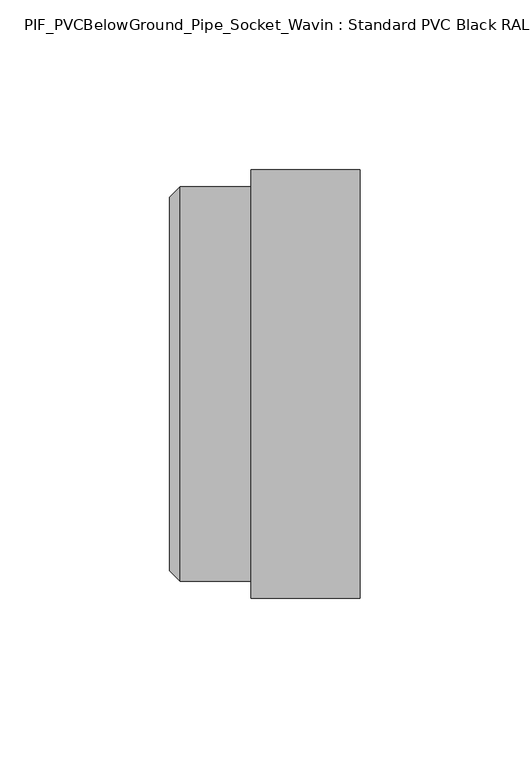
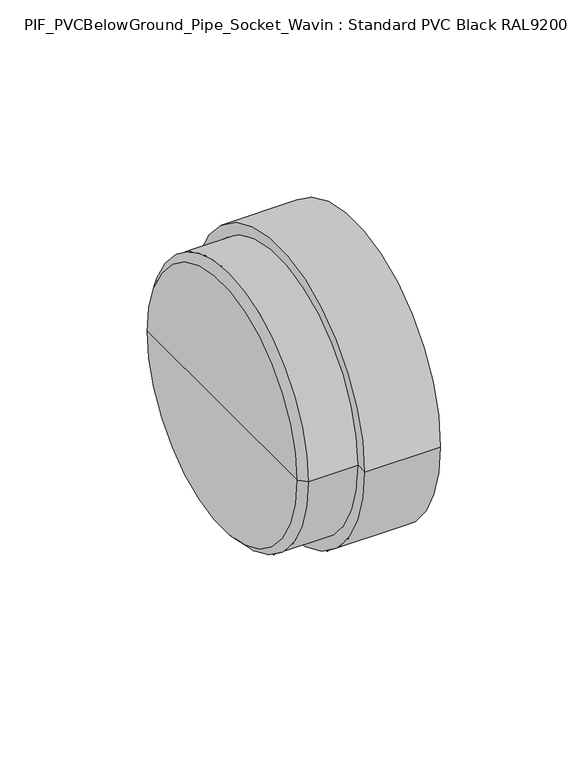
"""IFC4 building model written with IfcOpenShell, lengths in millimetres: pipe fitting geometry, PIF_PVCBelowGround_Pipe_Socket_Wavin : Standard PVC Black RAL9200."""

from ifc_helpers import new_model, si_unit, frame, origin, place, context, project, spatial, polyline, circle_curve, source, transform, mapped, element, save
from ifc_brep_helpers import plane_surface, cylinder_surface, revolved_surface, advanced_brep


def pif_pvcbelowground_pipe_socket_wavin_standard_pvc_black_1dbcee6c(model_context):
    return source(origin(), model_context, "Body", "AdvancedBrep", [
        advanced_brep(
        [(21.0, -63.0, 0.0), (21.0, 63.0, 0.0), (53.0, 63.0, 0.0), (53.0, -63.0, 0.0), (21.0, -58.1, 0.0), (21.0, 58.1, 0.0), (53.0, -58.1, 0.0), (53.0, 58.1, 0.0)],
        [
            (0, 1, circle_curve(frame((21.0, 0.0, 0.0), z_axis=(1.0, 0.0, 0.0), x_axis=(0.0, 1.0, 0.0)), 63.0)),
            (1, 2),
            (2, 3, circle_curve(frame((53.0, 0.0, 0.0), z_axis=(-1.0, 0.0, 0.0), x_axis=(0.0, 1.0, 0.0)), 63.0)),
            (3, 0),
            (1, 0, circle_curve(frame((21.0, 0.0, 0.0), z_axis=(1.0, 0.0, 0.0), x_axis=(0.0, 1.0, 0.0)), 63.0)),
            (3, 2, circle_curve(frame((53.0, 0.0, 0.0), z_axis=(-1.0, 0.0, 0.0), x_axis=(0.0, 1.0, 0.0)), 63.0)),
            (4, 5, circle_curve(frame((21.0, 0.0, 0.0), z_axis=(1.0, 0.0, 0.0), x_axis=(0.0, 1.0, 0.0)), 58.1)),
            (5, 1),
            (0, 4),
            (5, 4, circle_curve(frame((21.0, 0.0, 0.0), z_axis=(1.0, 0.0, 0.0), x_axis=(0.0, 1.0, 0.0)), 58.1)),
            (6, 7, circle_curve(frame((53.0, 0.0, 0.0), z_axis=(1.0, 0.0, 0.0), x_axis=(0.0, 1.0, 0.0)), 58.1)),
            (7, 5),
            (4, 6),
            (7, 6, circle_curve(frame((53.0, 0.0, 0.0), z_axis=(1.0, 0.0, 0.0), x_axis=(0.0, 1.0, 0.0)), 58.1)),
            (2, 7),
            (6, 3),
        ],
        [
            cylinder_surface(frame((1963.3, 0.0, 0.0), z_axis=(-1.0, 0.0, 0.0), x_axis=(0.0, 1.0, 0.0)), 63.0),
            plane_surface(frame((21.0, 0.0, 0.0), z_axis=(-1.0, 0.0, 0.0), x_axis=(0.0, 1.0, 0.0))),
            revolved_surface(polyline([(21.0, 58.1, 0.0), (53.0, 58.1, 0.0)]), (1963.3, 0.0, 0.0), (-1.0, 0.0, 0.0)),
            plane_surface(frame((53.0, 0.0, 0.0), z_axis=(1.0, 0.0, 0.0), x_axis=(0.0, 1.0, 0.0))),
        ],
        [
            (0, [[1, 2, 3, 4]]),
            (0, [[5, -4, 6, -2]]),
            (1, [[7, 8, -1, 9]]),
            (1, [[10, -9, -5, -8]]),
            (2, [[11, 12, -7, 13]]),
            (2, [[14, -13, -10, -12]]),
            (3, [[-3, 15, -11, 16]]),
            (3, [[-6, -16, -14, -15]]),
        ],
    ),
        advanced_brep(
        [(53.0, -58.1, 0.0), (53.0, 58.1, 0.0), (53.0, 55.0, 0.0), (53.0, -55.0, 0.0), (0.0, -58.1, 0.0), (0.0, 58.1, 0.0), (-3.0, -55.0, 0.0), (-3.0, 55.0, 0.0), (-3.0, 0.0, 0.0), (0.0, -55.0, 0.0), (0.0, 55.0, 0.0), (0.0, 0.0, 0.0)],
        [
            (0, 1, circle_curve(frame((53.0, 0.0, 0.0), z_axis=(1.0, 0.0, 0.0), x_axis=(0.0, 1.0, 0.0)), 58.1)),
            (1, 2),
            (2, 3, circle_curve(frame((53.0, 0.0, 0.0), z_axis=(-1.0, 0.0, 0.0), x_axis=(0.0, 1.0, 0.0)), 55.0)),
            (3, 0),
            (1, 0, circle_curve(frame((53.0, 0.0, 0.0), z_axis=(1.0, 0.0, 0.0), x_axis=(0.0, 1.0, 0.0)), 58.1)),
            (3, 2, circle_curve(frame((53.0, 0.0, 0.0), z_axis=(-1.0, 0.0, 0.0), x_axis=(0.0, 1.0, 0.0)), 55.0)),
            (4, 5, circle_curve(frame((0.0, 0.0, 0.0), z_axis=(1.0, 0.0, 0.0), x_axis=(0.0, 1.0, 0.0)), 58.1)),
            (5, 1),
            (0, 4),
            (5, 4, circle_curve(frame((0.0, 0.0, 0.0), z_axis=(1.0, 0.0, 0.0), x_axis=(0.0, 1.0, 0.0)), 58.1)),
            (6, 7, circle_curve(frame((-3.0, 0.0, 0.0), z_axis=(1.0, 0.0, 0.0), x_axis=(0.0, 1.0, 0.0)), 55.0)),
            (7, 5),
            (4, 6),
            (7, 6, circle_curve(frame((-3.0, 0.0, 0.0), z_axis=(1.0, 0.0, 0.0), x_axis=(0.0, 1.0, 0.0)), 55.0)),
            (8, 7),
            (6, 8),
            (9, 10, circle_curve(frame((0.0, 0.0, 0.0), z_axis=(1.0, 0.0, 0.0), x_axis=(0.0, 1.0, 0.0)), 55.0)),
            (10, 11),
            (11, 9),
            (10, 9, circle_curve(frame((0.0, 0.0, 0.0), z_axis=(1.0, 0.0, 0.0), x_axis=(0.0, 1.0, 0.0)), 55.0)),
            (2, 10),
            (9, 3),
        ],
        [
            plane_surface(frame((53.0, 0.0, 0.0), z_axis=(1.0, 0.0, 0.0), x_axis=(0.0, 1.0, 0.0))),
            cylinder_surface(frame((1963.3, 0.0, 0.0), z_axis=(-1.0, 0.0, 0.0), x_axis=(0.0, 1.0, 0.0)), 58.1),
            revolved_surface(polyline([(0.0, 58.1, 0.0), (-3.0, 55.0, 0.0)]), (1963.3, 0.0, 0.0), (-1.0, 0.0, 0.0)),
            plane_surface(frame((-3.0, 0.0, 0.0), z_axis=(-1.0, 0.0, 0.0), x_axis=(0.0, 1.0, 0.0))),
            plane_surface(frame((0.0, 0.0, 0.0), z_axis=(1.0, 0.0, 0.0), x_axis=(0.0, 1.0, 0.0))),
            revolved_surface(polyline([(0.0, 55.0, 0.0), (53.0, 55.0, 0.0)]), (1963.3, 0.0, 0.0), (-1.0, 0.0, 0.0)),
        ],
        [
            (0, [[1, 2, 3, 4]]),
            (0, [[5, -4, 6, -2]]),
            (1, [[7, 8, -1, 9]]),
            (1, [[10, -9, -5, -8]]),
            (2, [[11, 12, -7, 13]]),
            (2, [[14, -13, -10, -12]]),
            (3, [[15, -11, 16]]),
            (3, [[-16, -14, -15]]),
            (4, [[17, 18, 19]]),
            (4, [[20, -19, -18]]),
            (5, [[-3, 21, -17, 22]]),
            (5, [[-6, -22, -20, -21]]),
        ],
    ),
    ])


if __name__ == "__main__":
    model = new_model("IFC4")
    model_context = context("Model", 3, world=origin())
    ifc_project = project(units=[si_unit("LENGTHUNIT", "METRE", prefix="MILLI")], contexts=[model_context])
    site = spatial("IfcSite", under=ifc_project)
    building = spatial("IfcBuilding", under=site)
    placement = place(None, origin())
    pif_pvcbelowground_pipe_socket_wavin_standard_pvc_black_shape = pif_pvcbelowground_pipe_socket_wavin_standard_pvc_black_1dbcee6c(model_context)
    element("IfcPipeFitting", 1, ObjectType="PIF_PVCBelowGround_Pipe_Socket_Wavin : Standard PVC Black RAL9200", at=placement, inside=building, context=model_context, shape_type="MappedRepresentation", body=[
        mapped(pif_pvcbelowground_pipe_socket_wavin_standard_pvc_black_shape, transform((0.0, 0.0, 0.0), x_axis=(1.0, 0.0, 0.0), y_axis=(0.0, 1.0, 0.0), z_axis=(0.0, 0.0, 1.0))),
    ])
    save(model, "model.ifc")
